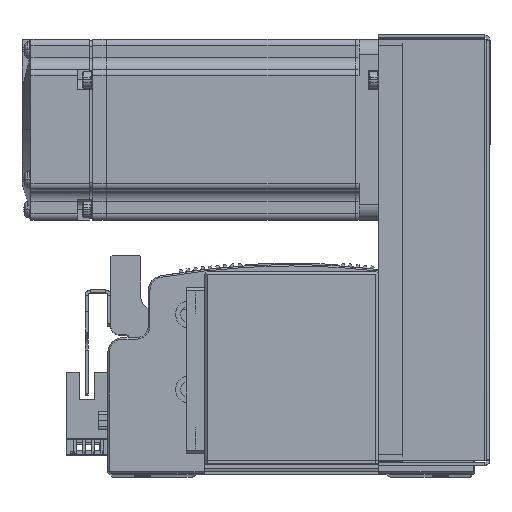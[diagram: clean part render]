
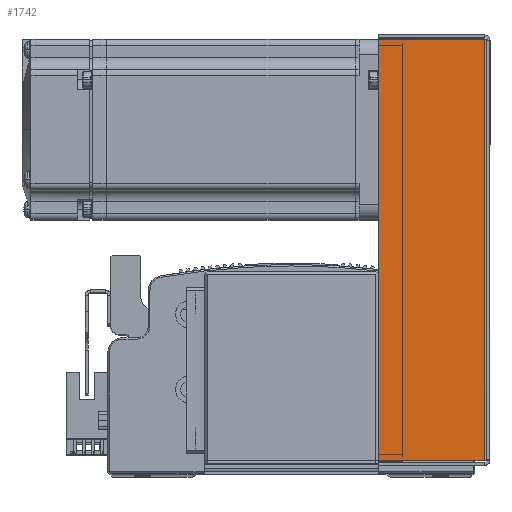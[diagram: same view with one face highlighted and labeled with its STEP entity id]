
A CAD part, top view. The second image highlights one B-rep face of the part: STEP entity #1742.
In plain terms, the highlighted planar face has unit normal (0, 0, 1) as drawn and (0, 0, -1) by its records, which use the part's own axes.
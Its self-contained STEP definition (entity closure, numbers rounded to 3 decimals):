
#1742 = ADVANCED_FACE ( 'NONE', ( #40300 ), #46110, .F. ) ;
#4995 = CARTESIAN_POINT ( 'NONE',  ( -69.793, 36., -33.5 ) ) ;
#5020 = CARTESIAN_POINT ( 'NONE',  ( 69.793, 0.737, -33.5 ) ) ;
#5049 = CARTESIAN_POINT ( 'NONE',  ( -69.793, 0.737, -33.5 ) ) ;
#5060 = CARTESIAN_POINT ( 'NONE',  ( 69.793, 36., -33.5 ) ) ;
#22639 = LINE ( 'NONE', #32236, #22641 ) ;
#22641 = VECTOR ( 'NONE', #32212, 1000. ) ;
#22654 = VECTOR ( 'NONE', #32279, 1000. ) ;
#22661 = LINE ( 'NONE', #32262, #22654 ) ;
#22673 = LINE ( 'NONE', #32448, #22676 ) ;
#22676 = VECTOR ( 'NONE', #32892, 1000. ) ;
#22705 = VECTOR ( 'NONE', #32412, 1000. ) ;
#22709 = LINE ( 'NONE', #32335, #22705 ) ;
#32212 = DIRECTION ( 'NONE',  ( 1., 0., 0. ) ) ;
#32236 = CARTESIAN_POINT ( 'NONE',  ( 71.5, 0.737, -33.5 ) ) ;
#32262 = CARTESIAN_POINT ( 'NONE',  ( 0., 36., -33.5 ) ) ;
#32279 = DIRECTION ( 'NONE',  ( 1., 0., 0. ) ) ;
#32335 = CARTESIAN_POINT ( 'NONE',  ( -69.793, 0., -33.5 ) ) ;
#32412 = DIRECTION ( 'NONE',  ( 0., 1., 0. ) ) ;
#32448 = CARTESIAN_POINT ( 'NONE',  ( 69.793, 0., -33.5 ) ) ;
#32892 = DIRECTION ( 'NONE',  ( 0., 1., 0. ) ) ;
#40300 = FACE_OUTER_BOUND ( 'NONE', #83071, .T. ) ;
#46110 = PLANE ( 'NONE',  #50962 ) ;
#46112 = CARTESIAN_POINT ( 'NONE',  ( 0., 0., -33.5 ) ) ;
#46113 = DIRECTION ( 'NONE',  ( 0., 0., 1. ) ) ;
#46115 = DIRECTION ( 'NONE',  ( 0., -1., 0. ) ) ;
#50962 = AXIS2_PLACEMENT_3D ( 'NONE', #46112, #46113, #46115 ) ;
#64944 = EDGE_CURVE ( 'NONE', #80549, #80510, #22639, .T. ) ;
#64972 = EDGE_CURVE ( 'NONE', #80440, #80544, #22661, .T. ) ;
#64992 = EDGE_CURVE ( 'NONE', #80549, #80440, #22709, .T. ) ;
#65030 = EDGE_CURVE ( 'NONE', #80510, #80544, #22673, .T. ) ;
#72986 = ORIENTED_EDGE ( 'NONE', *, *, #64992, .T. ) ;
#73080 = ORIENTED_EDGE ( 'NONE', *, *, #64944, .F. ) ;
#73166 = ORIENTED_EDGE ( 'NONE', *, *, #64972, .T. ) ;
#73174 = ORIENTED_EDGE ( 'NONE', *, *, #65030, .F. ) ;
#80440 = VERTEX_POINT ( 'NONE', #4995 ) ;
#80510 = VERTEX_POINT ( 'NONE', #5020 ) ;
#80544 = VERTEX_POINT ( 'NONE', #5060 ) ;
#80549 = VERTEX_POINT ( 'NONE', #5049 ) ;
#83071 = EDGE_LOOP ( 'NONE', ( #73080, #72986, #73166, #73174 ) ) ;
